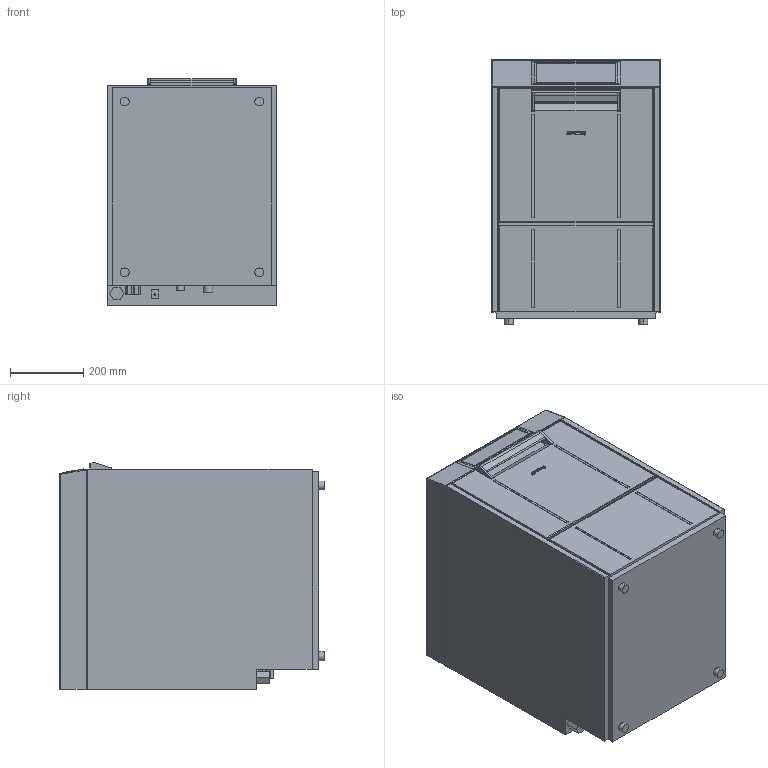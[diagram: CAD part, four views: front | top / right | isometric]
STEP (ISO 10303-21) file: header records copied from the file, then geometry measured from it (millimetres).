
FILE_DESCRIPTION (( 'STEP AP203' ), '1' );
FILE_NAME ('PRF-400 L460 +CONNESSIONI.STEP', '2019-12-09T12:58:55', ( '' ), ( '' ), 'SwSTEP 2.0', 'SolidWorks 2018', '' );
FILE_SCHEMA (( 'CONFIG_CONTROL_DESIGN' ));
Length unit declared in the file: millimetre
Products named in the file (1): PRF-400 L460 +CONNESSIONI
Bounding box: 460 x 720 x 617.94 mm (x, y, z)
Volume: 189769544 mm3; surface area: 2090147 mm2
Topology: 1 solids, 1 shells, 306 faces, 771 edges, 490 vertices
Faces by surface type: plane 160, cylinder 108, bspline 19, sphere 12, cone 7
Entity records: 9227 total; most frequent: CARTESIAN_POINT 1871, ORIENTED_EDGE 1522, DIRECTION 1507, EDGE_CURVE 761, VECTOR 503, LINE 503, AXIS2_PLACEMENT_3D 502, VERTEX_POINT 490
